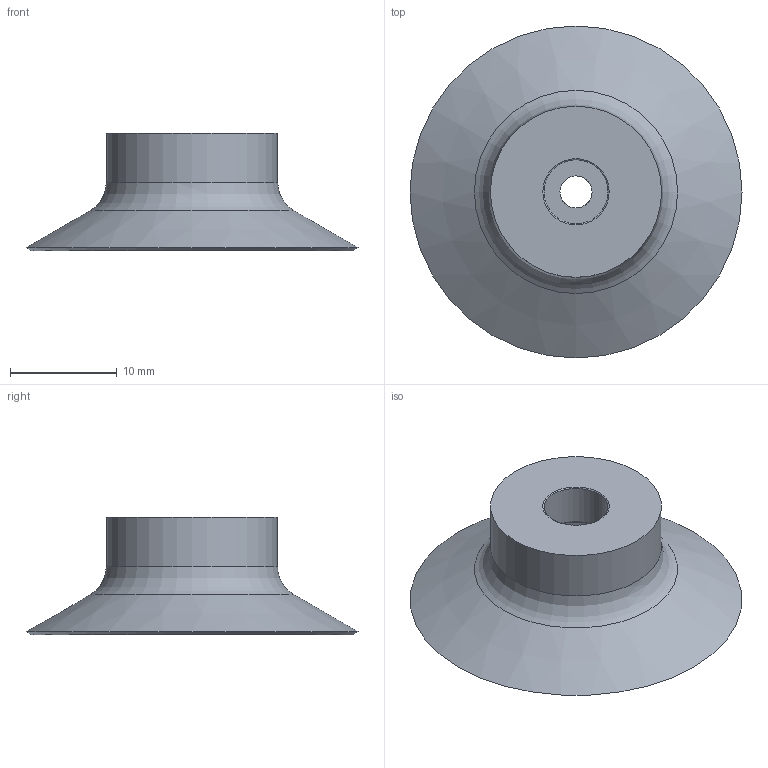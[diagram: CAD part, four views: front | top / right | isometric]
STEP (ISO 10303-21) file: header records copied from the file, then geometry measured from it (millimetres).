
FILE_DESCRIPTION(('STEP AP203'),'1');
FILE_NAME('_3D.stp','2024-06-11T23:13:21',(' '),(' '),'Spatial InterOp 3D',' ',' ');
FILE_SCHEMA(('CONFIG_CONTROL_DESIGN'));
Length unit declared in the file: millimetre
Products named in the file (1): 1
Bounding box: 31.04 x 31.04 x 11 mm (x, y, z)
Volume: 2882.2 mm3; surface area: 2318.9 mm2
Topology: 1 solids, 1 shells, 209 faces, 513 edges, 340 vertices
Faces by surface type: plane 124, cylinder 77, torus 5, cone 3
Full cylindrical faces by diameter (mm): 3 x1, 6 x1, 10 x1, 16 x1, 27.5 x1
Entity records: 6142 total; most frequent: DIRECTION 1092, CARTESIAN_POINT 1042, ORIENTED_EDGE 992, EDGE_CURVE 496, AXIS2_PLACEMENT_3D 386, VERTEX_POINT 336, LINE 320, VECTOR 320
